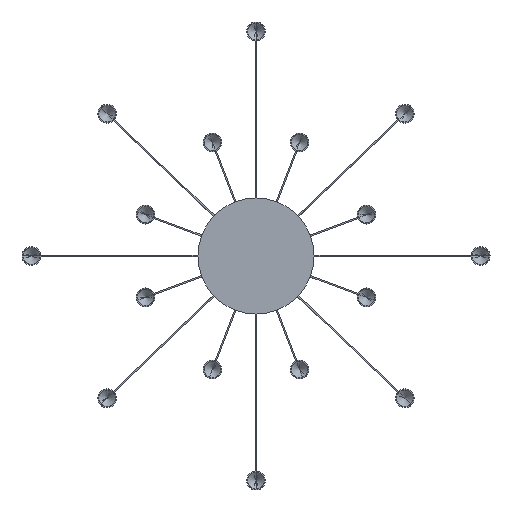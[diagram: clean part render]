
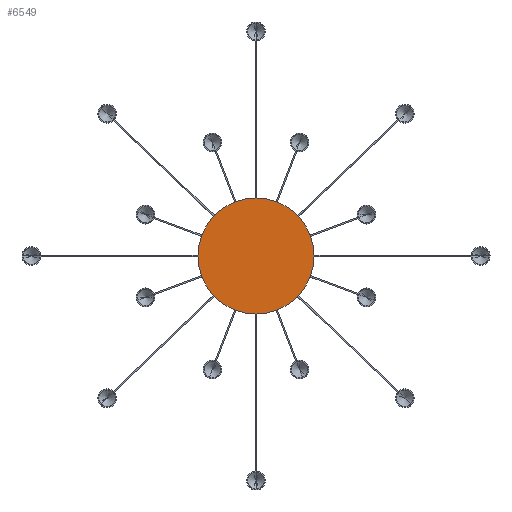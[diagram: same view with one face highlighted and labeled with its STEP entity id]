
A CAD part, front view. The second image highlights one B-rep face of the part: STEP entity #6549.
In plain terms, the highlighted planar face has unit normal (0, -1, 0).
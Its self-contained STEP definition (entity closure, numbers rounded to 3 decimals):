
#239 = AXIS2_PLACEMENT_3D ( 'NONE', #5337, #3408, #2277 ) ;
#699 = EDGE_LOOP ( 'NONE', ( #5454, #4357 ) ) ;
#1353 = DIRECTION ( 'NONE',  ( 0., 1., 0. ) ) ;
#1894 = AXIS2_PLACEMENT_3D ( 'NONE', #4984, #4460, #4951 ) ;
#2277 = DIRECTION ( 'NONE',  ( 0., 0., 1. ) ) ;
#3408 = DIRECTION ( 'NONE',  ( 0., 1., 0. ) ) ;
#4239 = CIRCLE ( 'NONE', #6489, 155. ) ;
#4357 = ORIENTED_EDGE ( 'NONE', *, *, #6070, .F. ) ;
#4460 = DIRECTION ( 'NONE',  ( 0., 1., 0. ) ) ;
#4529 = VERTEX_POINT ( 'NONE', #6215 ) ;
#4690 = CIRCLE ( 'NONE', #239, 155. ) ;
#4951 = DIRECTION ( 'NONE',  ( 0., 0., 1. ) ) ;
#4984 = CARTESIAN_POINT ( 'NONE',  ( 0., 0., 0. ) ) ;
#5172 = EDGE_CURVE ( 'NONE', #5421, #4529, #4239, .T. ) ;
#5238 = DIRECTION ( 'NONE',  ( 0., 0., 1. ) ) ;
#5337 = CARTESIAN_POINT ( 'NONE',  ( 0., 0., 0. ) ) ;
#5421 = VERTEX_POINT ( 'NONE', #5699 ) ;
#5454 = ORIENTED_EDGE ( 'NONE', *, *, #5172, .F. ) ;
#5699 = CARTESIAN_POINT ( 'NONE',  ( 0., 0., -155. ) ) ;
#6013 = FACE_OUTER_BOUND ( 'NONE', #699, .T. ) ;
#6070 = EDGE_CURVE ( 'NONE', #4529, #5421, #4690, .T. ) ;
#6215 = CARTESIAN_POINT ( 'NONE',  ( 0., 0., 155. ) ) ;
#6426 = PLANE ( 'NONE',  #1894 ) ;
#6489 = AXIS2_PLACEMENT_3D ( 'NONE', #6502, #1353, #5238 ) ;
#6502 = CARTESIAN_POINT ( 'NONE',  ( 0., 0., 0. ) ) ;
#6549 = ADVANCED_FACE ( 'NONE', ( #6013 ), #6426, .F. ) ;
